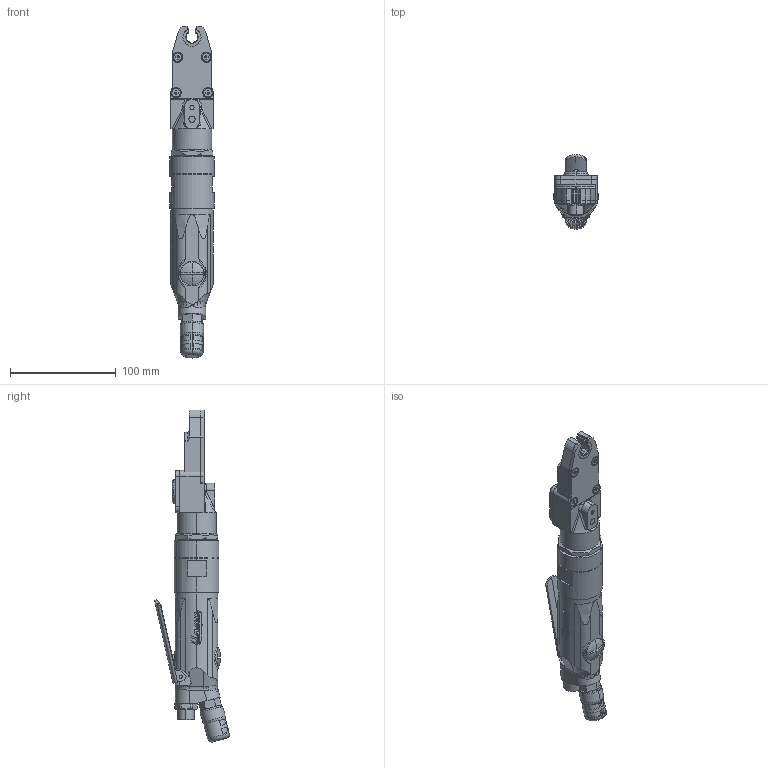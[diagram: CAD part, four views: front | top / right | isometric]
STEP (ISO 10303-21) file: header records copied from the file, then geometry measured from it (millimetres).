
FILE_DESCRIPTION (( 'STEP AP203' ), '1' );
FILE_NAME ('UOW-11-10.STEP', '2006-01-31T23:43:15', ( '' ), ( '' ), 'SwSTEP 2.0', 'SolidWorks 2004073', '' );
FILE_SCHEMA (( 'CONFIG_CONTROL_DESIGN' ));
Length unit declared in the file: millimetre
Products named in the file (7): 4381073_蹬怮椔; 2334470_蹬怮椔; UOW-11-10; 2350320_蹬怮椔; 2330291_蹬怮椔; 2350250_蹬怮椔; 2351040_蹬怮椔
Assembly tree (6 placements, depth 2):
  UOW-11-10
    2351040_蹬怮椔
    2330291_蹬怮椔
    2350320_蹬怮椔
    2350250_蹬怮椔
    4381073_蹬怮椔
    2334470_蹬怮椔
Bounding box: 42 x 70.57 x 313.33 mm (x, y, z)
Volume: 319445 mm3; surface area: 54683.6 mm2
Topology: 6 solids, 6 shells, 798 faces, 2141 edges, 1391 vertices
Faces by surface type: plane 410, cylinder 244, bspline 62, cone 60, torus 20, sphere 2
Entity records: 42170 total; most frequent: CARTESIAN_POINT 22235, ORIENTED_EDGE 4268, DIRECTION 3683, EDGE_CURVE 2134, VERTEX_POINT 1391, AXIS2_PLACEMENT_3D 1273, LINE 1137, VECTOR 1137
